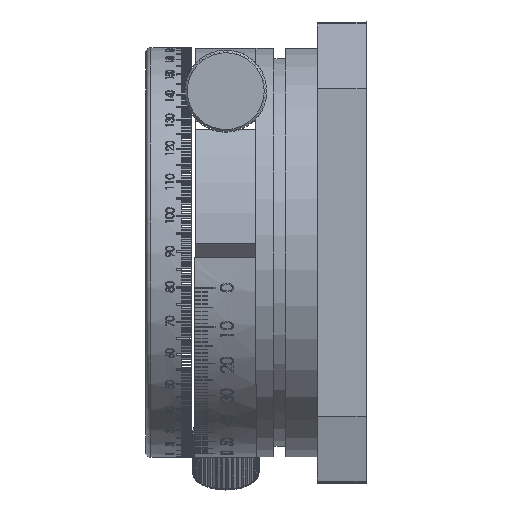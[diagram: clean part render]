
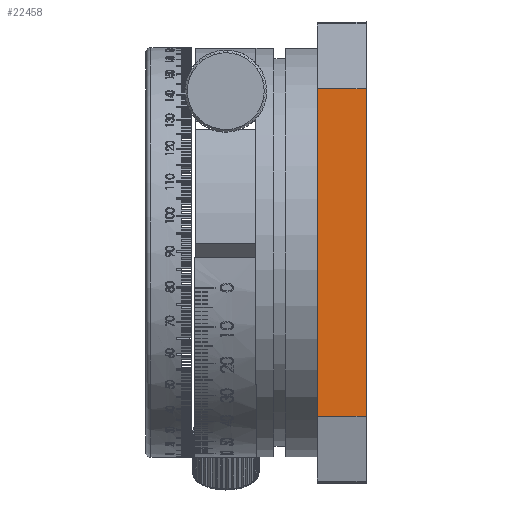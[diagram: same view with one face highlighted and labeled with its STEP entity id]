
A CAD part, left-side view. The second image highlights one B-rep face of the part: STEP entity #22458.
In plain terms, the highlighted planar face has unit normal (-1, 0, 0).
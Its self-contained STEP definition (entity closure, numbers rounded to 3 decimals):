
#4696 = EDGE_CURVE ( 'NONE', #91009, #91019, #95029, .T. ) ;
#4697 = EDGE_CURVE ( 'NONE', #91019, #91000, #95022, .T. ) ;
#4698 = EDGE_CURVE ( 'NONE', #91011, #91000, #95036, .T. ) ;
#4699 = EDGE_CURVE ( 'NONE', #91009, #91011, #95032, .T. ) ;
#11208 = EDGE_LOOP ( 'NONE', ( #14242, #14243, #14244, #14245 ) ) ;
#14242 = ORIENTED_EDGE ( 'NONE', *, *, #4697, .T. ) ;
#14243 = ORIENTED_EDGE ( 'NONE', *, *, #4698, .F. ) ;
#14244 = ORIENTED_EDGE ( 'NONE', *, *, #4699, .F. ) ;
#14245 = ORIENTED_EDGE ( 'NONE', *, *, #4696, .T. ) ;
#22458 = ADVANCED_FACE ( 'NONE', ( #149813 ), #152042, .F. ) ;
#43052 = CARTESIAN_POINT ( 'NONE',  ( 10.65, 41.991, -29.546 ) ) ;
#43063 = CARTESIAN_POINT ( 'NONE',  ( 10.65, 32.491, 34.454 ) ) ;
#43066 = CARTESIAN_POINT ( 'NONE',  ( 10.65, 32.491, -29.546 ) ) ;
#43075 = CARTESIAN_POINT ( 'NONE',  ( 10.65, 41.991, 34.454 ) ) ;
#91000 = VERTEX_POINT ( 'NONE', #43052 ) ;
#91009 = VERTEX_POINT ( 'NONE', #43063 ) ;
#91011 = VERTEX_POINT ( 'NONE', #43066 ) ;
#91019 = VERTEX_POINT ( 'NONE', #43075 ) ;
#95022 = LINE ( 'NONE', #109139, #95038 ) ;
#95029 = LINE ( 'NONE', #109160, #95034 ) ;
#95032 = LINE ( 'NONE', #109156, #95045 ) ;
#95034 = VECTOR ( 'NONE', #109161, 1000. ) ;
#95036 = LINE ( 'NONE', #109163, #95041 ) ;
#95038 = VECTOR ( 'NONE', #109162, 1000. ) ;
#95041 = VECTOR ( 'NONE', #109164, 1000. ) ;
#95045 = VECTOR ( 'NONE', #109165, 1000. ) ;
#109139 = CARTESIAN_POINT ( 'NONE',  ( 10.65, 41.991, 34.454 ) ) ;
#109156 = CARTESIAN_POINT ( 'NONE',  ( 10.65, 32.491, 34.454 ) ) ;
#109160 = CARTESIAN_POINT ( 'NONE',  ( 10.65, 32.491, 34.454 ) ) ;
#109161 = DIRECTION ( 'NONE',  ( 0., 1., 0. ) ) ;
#109162 = DIRECTION ( 'NONE',  ( 0., 0., -1. ) ) ;
#109163 = CARTESIAN_POINT ( 'NONE',  ( 10.65, 32.491, -29.546 ) ) ;
#109164 = DIRECTION ( 'NONE',  ( 0., 1., 0. ) ) ;
#109165 = DIRECTION ( 'NONE',  ( 0., 0., -1. ) ) ;
#145848 = AXIS2_PLACEMENT_3D ( 'NONE', #152038, #152044, #152045 ) ;
#149813 = FACE_OUTER_BOUND ( 'NONE', #11208, .T. ) ;
#152038 = CARTESIAN_POINT ( 'NONE',  ( 10.65, 32.491, 34.454 ) ) ;
#152042 = PLANE ( 'NONE',  #145848 ) ;
#152044 = DIRECTION ( 'NONE',  ( 1., 0., 0. ) ) ;
#152045 = DIRECTION ( 'NONE',  ( 0., 0., 1. ) ) ;
